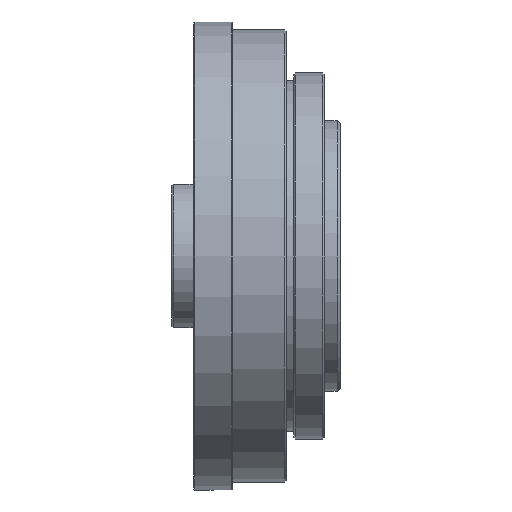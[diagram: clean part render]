
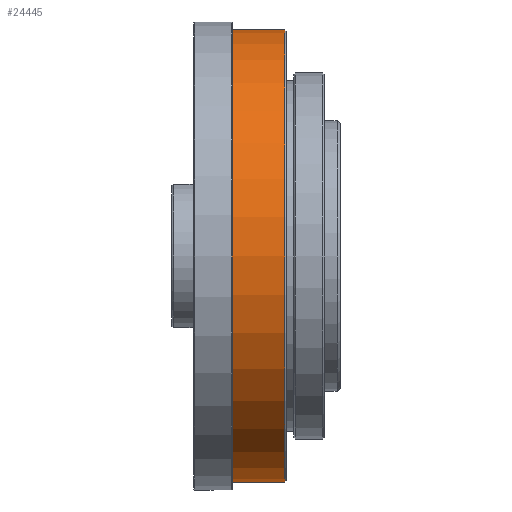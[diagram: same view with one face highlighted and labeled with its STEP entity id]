
A CAD part, front view. The second image highlights one B-rep face of the part: STEP entity #24445.
In plain terms, the highlighted cylindrical face has radius 71 mm (diameter 142 mm), a full revolution.
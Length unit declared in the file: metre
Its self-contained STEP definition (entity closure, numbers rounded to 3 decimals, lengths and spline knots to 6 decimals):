
#4423 = CARTESIAN_POINT ( 'NONE',  ( -0.02315, 0., 0. ) ) ;
#5094 = DIRECTION ( 'NONE',  ( 0., -0.5, 0.866 ) ) ;
#6004 = AXIS2_PLACEMENT_3D ( 'NONE', #4423, #18286, #13084 ) ;
#7760 = VERTEX_POINT ( 'NONE', #60160 ) ;
#9729 = DIRECTION ( 'NONE',  ( -1., 0., 0. ) ) ;
#10289 = VERTEX_POINT ( 'NONE', #29025 ) ;
#13084 = DIRECTION ( 'NONE',  ( 0., -0.5, 0.866 ) ) ;
#15854 = DIRECTION ( 'NONE',  ( -1., 0., 0. ) ) ;
#16077 = AXIS2_PLACEMENT_3D ( 'NONE', #35198, #15854, #32711 ) ;
#18286 = DIRECTION ( 'NONE',  ( 1., 0., 0. ) ) ;
#21050 = FACE_OUTER_BOUND ( 'NONE', #31524, .T. ) ;
#21466 = EDGE_LOOP ( 'NONE', ( #21975 ) ) ;
#21975 = ORIENTED_EDGE ( 'NONE', *, *, #37065, .T. ) ;
#24445 = ADVANCED_FACE ( 'NONE', ( #58104, #21050 ), #39872, .T. ) ;
#24819 = CIRCLE ( 'NONE', #43531, 0.071 ) ;
#29025 = CARTESIAN_POINT ( 'NONE',  ( -0.02315, -0.0355, 0.061488 ) ) ;
#31524 = EDGE_LOOP ( 'NONE', ( #36894 ) ) ;
#32269 = EDGE_CURVE ( 'NONE', #10289, #10289, #56206, .T. ) ;
#32711 = DIRECTION ( 'NONE',  ( 0., -0.5, 0.866 ) ) ;
#35198 = CARTESIAN_POINT ( 'NONE',  ( -0.02365, 0., 0. ) ) ;
#36894 = ORIENTED_EDGE ( 'NONE', *, *, #32269, .T. ) ;
#37065 = EDGE_CURVE ( 'NONE', #7760, #7760, #24819, .T. ) ;
#39872 = CYLINDRICAL_SURFACE ( 'NONE', #16077, 0.071 ) ;
#43531 = AXIS2_PLACEMENT_3D ( 'NONE', #56276, #9729, #5094 ) ;
#56206 = CIRCLE ( 'NONE', #6004, 0.071 ) ;
#56276 = CARTESIAN_POINT ( 'NONE',  ( -0.00415, 0., 0. ) ) ;
#58104 = FACE_OUTER_BOUND ( 'NONE', #21466, .T. ) ;
#60160 = CARTESIAN_POINT ( 'NONE',  ( -0.00415, -0.0355, 0.061488 ) ) ;
